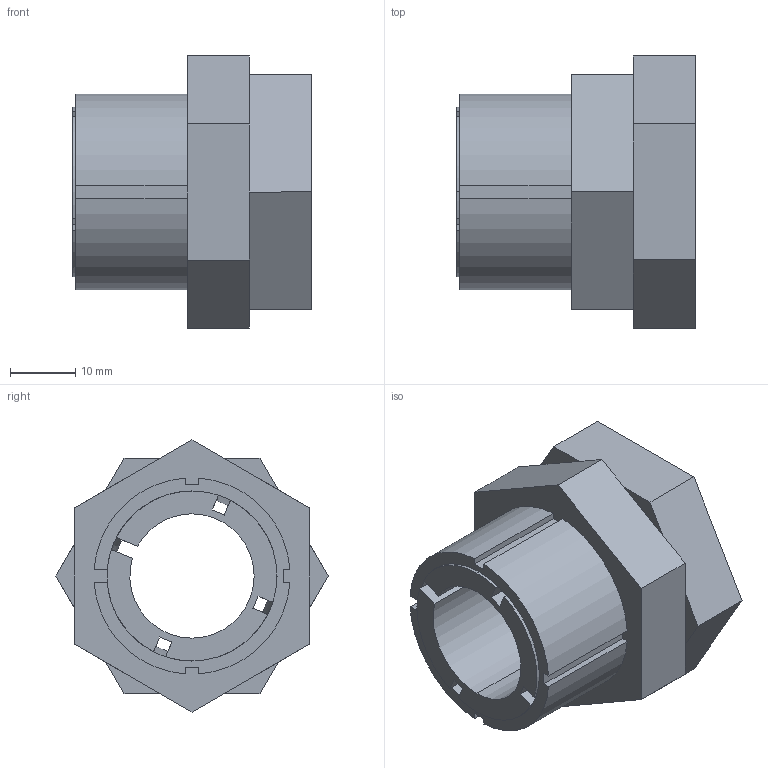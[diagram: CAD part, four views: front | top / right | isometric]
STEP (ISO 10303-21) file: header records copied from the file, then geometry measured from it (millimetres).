
FILE_DESCRIPTION (( 'STEP AP203' ), '1' );
FILE_NAME ('KBS 59 - 19 x 30.STEP', '2015-07-07T21:03:09', ( '' ), ( '' ), 'SwSTEP 2.0', 'SolidWorks 2010', '' );
FILE_SCHEMA (( 'CONFIG_CONTROL_DESIGN' ));
Length unit declared in the file: millimetre
Products named in the file (1): KBS 59 - 19 x 30
Bounding box: 36.5 x 41.57 x 41.57 mm (x, y, z)
Volume: 22234.5 mm3; surface area: 14664.8 mm2
Topology: 3 solids, 3 shells, 78 faces, 204 edges, 132 vertices
Faces by surface type: plane 56, cylinder 14, cone 8
Entity records: 2469 total; most frequent: CARTESIAN_POINT 451, ORIENTED_EDGE 408, DIRECTION 396, EDGE_CURVE 204, LINE 150, VECTOR 150, VERTEX_POINT 132, AXIS2_PLACEMENT_3D 123
